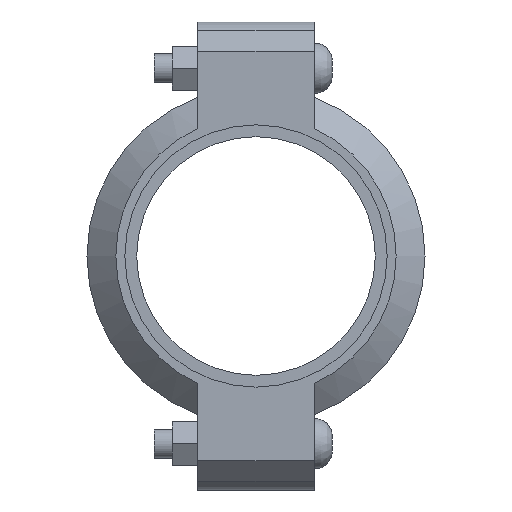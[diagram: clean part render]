
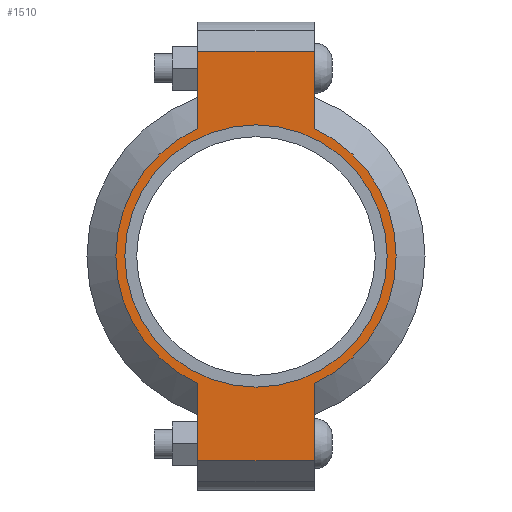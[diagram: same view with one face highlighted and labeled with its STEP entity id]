
A CAD part, left-side view. The second image highlights one B-rep face of the part: STEP entity #1510.
In plain terms, the highlighted planar face has unit normal (-1, 0, 0) as drawn and (0, 0, 1) by its records, which use the part's own axes.
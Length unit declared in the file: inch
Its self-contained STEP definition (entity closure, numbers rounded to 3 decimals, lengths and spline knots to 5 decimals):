
#134=LINE('',#2626,#227);
#142=LINE('',#2662,#235);
#149=LINE('',#2683,#242);
#158=LINE('',#2715,#251);
#159=LINE('',#2719,#252);
#160=LINE('',#2721,#253);
#227=VECTOR('',#2146,0.3937);
#235=VECTOR('',#2162,0.3937);
#242=VECTOR('',#2181,0.3937);
#251=VECTOR('',#2206,0.3937);
#252=VECTOR('',#2211,0.3937);
#253=VECTOR('',#2212,0.3937);
#309=FACE_BOUND('',#487,.T.);
#381=FACE_OUTER_BOUND('',#486,.T.);
#486=EDGE_LOOP('',(#1251,#1252,#1253,#1254,#1255,#1256,#1257,#1258));
#487=EDGE_LOOP('',(#1259));
#559=CIRCLE('',#1720,2.25);
#585=CIRCLE('',#1779,2.405);
#586=CIRCLE('',#1780,2.405);
#651=VERTEX_POINT('',#2442);
#694=VERTEX_POINT('',#2623);
#695=VERTEX_POINT('',#2625);
#706=VERTEX_POINT('',#2657);
#707=VERTEX_POINT('',#2661);
#714=VERTEX_POINT('',#2680);
#715=VERTEX_POINT('',#2682);
#725=VERTEX_POINT('',#2718);
#726=VERTEX_POINT('',#2720);
#807=EDGE_CURVE('',#651,#651,#559,.T.);
#868=EDGE_CURVE('',#695,#694,#134,.T.);
#882=EDGE_CURVE('',#707,#706,#142,.T.);
#892=EDGE_CURVE('',#715,#714,#149,.T.);
#907=EDGE_CURVE('',#707,#694,#158,.T.);
#908=EDGE_CURVE('',#706,#715,#585,.T.);
#909=EDGE_CURVE('',#725,#714,#159,.T.);
#910=EDGE_CURVE('',#725,#726,#160,.T.);
#911=EDGE_CURVE('',#726,#695,#586,.T.);
#1251=ORIENTED_EDGE('',*,*,#907,.F.);
#1252=ORIENTED_EDGE('',*,*,#882,.T.);
#1253=ORIENTED_EDGE('',*,*,#908,.T.);
#1254=ORIENTED_EDGE('',*,*,#892,.T.);
#1255=ORIENTED_EDGE('',*,*,#909,.F.);
#1256=ORIENTED_EDGE('',*,*,#910,.T.);
#1257=ORIENTED_EDGE('',*,*,#911,.T.);
#1258=ORIENTED_EDGE('',*,*,#868,.T.);
#1259=ORIENTED_EDGE('',*,*,#807,.T.);
#1352=PLANE('',#1778);
#1510=ADVANCED_FACE('',(#381,#309),#1352,.T.);
#1720=AXIS2_PLACEMENT_3D('',#2444,#2022,#2023);
#1778=AXIS2_PLACEMENT_3D('',#2716,#2207,#2208);
#1779=AXIS2_PLACEMENT_3D('',#2717,#2209,#2210);
#1780=AXIS2_PLACEMENT_3D('',#2722,#2213,#2214);
#2022=DIRECTION('center_axis',(0.,0.,-1.));
#2023=DIRECTION('ref_axis',(-1.,0.,0.));
#2146=DIRECTION('',(-1.,0.,0.));
#2162=DIRECTION('',(1.,0.,0.));
#2181=DIRECTION('',(1.,0.,0.));
#2206=DIRECTION('',(0.,1.,0.));
#2207=DIRECTION('center_axis',(0.,0.,1.));
#2208=DIRECTION('ref_axis',(1.,0.,0.));
#2209=DIRECTION('center_axis',(0.,0.,1.));
#2210=DIRECTION('ref_axis',(-1.,0.,0.));
#2211=DIRECTION('',(0.,-1.,0.));
#2212=DIRECTION('',(-1.,0.,0.));
#2213=DIRECTION('center_axis',(0.,0.,1.));
#2214=DIRECTION('ref_axis',(-1.,0.,0.));
#2442=CARTESIAN_POINT('',(2.25,0.,1.065));
#2444=CARTESIAN_POINT('Origin',(0.,0.,1.065));
#2623=CARTESIAN_POINT('',(-3.515,1.,1.065));
#2625=CARTESIAN_POINT('',(-2.18724,1.,1.065));
#2626=CARTESIAN_POINT('',(-4.015,1.,1.065));
#2657=CARTESIAN_POINT('',(-2.18724,-1.,1.065));
#2661=CARTESIAN_POINT('',(-3.515,-1.,1.065));
#2662=CARTESIAN_POINT('',(4.015,-1.,1.065));
#2680=CARTESIAN_POINT('',(3.515,-1.,1.065));
#2682=CARTESIAN_POINT('',(2.18724,-1.,1.065));
#2683=CARTESIAN_POINT('',(4.015,-1.,1.065));
#2715=CARTESIAN_POINT('',(-3.515,0.5,1.065));
#2716=CARTESIAN_POINT('Origin',(0.,0.,1.065));
#2717=CARTESIAN_POINT('Origin',(0.,0.,1.065));
#2718=CARTESIAN_POINT('',(3.515,1.,1.065));
#2719=CARTESIAN_POINT('',(3.515,-0.5,1.065));
#2720=CARTESIAN_POINT('',(2.18724,1.,1.065));
#2721=CARTESIAN_POINT('',(-4.015,1.,1.065));
#2722=CARTESIAN_POINT('Origin',(0.,0.,1.065));
